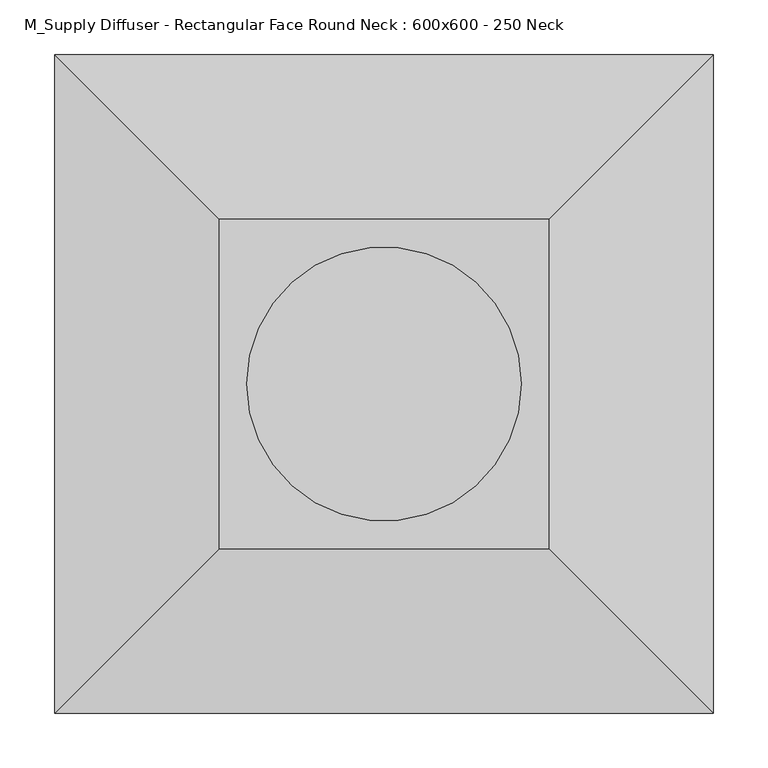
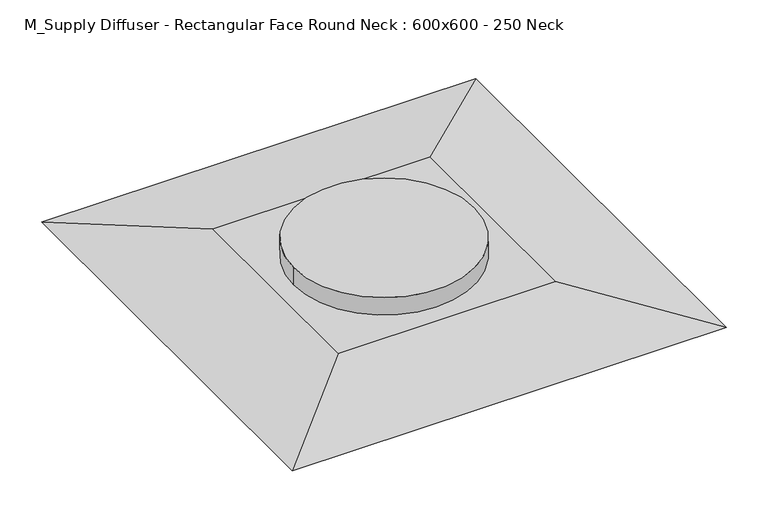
"""IFC4 building model written with IfcOpenShell, lengths in millimetres: air terminal geometry, M_Supply Diffuser - Rectangular Face Round Neck : 600x600 - 250 Neck."""

from ifc_helpers import new_model, si_unit, point, frame, origin, origin_2d, place, context, project, spatial, circle_curve, trimmed, segment, composite_curve, outline, extrude, faceted_brep, source, transform, mapped, element, save


def m_supply_diffuser_rectangular_face_round_neck_600x600_250_c542da2c(model_context):
    return source(origin(), model_context, "Body", "SolidModel", [
        extrude(outline(composite_curve([segment(trimmed(circle_curve(origin_2d(), 125.0), [point((-125.0, 0.0))], [point((125.0, 0.0))], False, "CARTESIAN"), True, "CONTINUOUS"), segment(trimmed(circle_curve(origin_2d(), 125.0), [point((125.0, 0.0))], [point((-125.0, 0.0))], False, "CARTESIAN"), True, "CONTINUOUS")], self_intersect=False)), frame((0.0, 0.0, 28.575), z_axis=(0.0, 0.0, 1.0), x_axis=(1.0, 0.0, 0.0)), (0.0, 0.0, 1.0), 25.4),
        faceted_brep([(150.0, 150.0, 28.575), (-150.0, 150.0, 28.575), (-150.0, -150.0, 28.575), (150.0, -150.0, 28.575), (300.0, 300.0, 0.0), (300.0, -300.0, 0.0), (-300.0, -300.0, 0.0), (-300.0, 300.0, 0.0)], [[[0, 1, 2, 3]], [[4, 5, 6, 7]], [[4, 7, 1, 0]], [[7, 6, 2, 1]], [[6, 5, 3, 2]], [[5, 4, 0, 3]]]),
    ])


if __name__ == "__main__":
    model = new_model("IFC4")
    model_context = context("Model", 3, world=origin())
    ifc_project = project(units=[si_unit("LENGTHUNIT", "METRE", prefix="MILLI")], contexts=[model_context])
    site = spatial("IfcSite", under=ifc_project)
    building = spatial("IfcBuilding", under=site)
    placement = place(None, origin())
    m_supply_diffuser_rectangular_face_round_neck_600x600_250_shape = m_supply_diffuser_rectangular_face_round_neck_600x600_250_c542da2c(model_context)
    element("IfcAirTerminal", 1, ObjectType="M_Supply Diffuser - Rectangular Face Round Neck : 600x600 - 250 Neck", at=placement, inside=building, context=model_context, shape_type="MappedRepresentation", body=[
        mapped(m_supply_diffuser_rectangular_face_round_neck_600x600_250_shape, transform((0.0, 0.0, 0.0), x_axis=(1.0, 0.0, 0.0), y_axis=(0.0, 1.0, 0.0), z_axis=(0.0, 0.0, 1.0))),
    ])
    save(model, "model.ifc")
